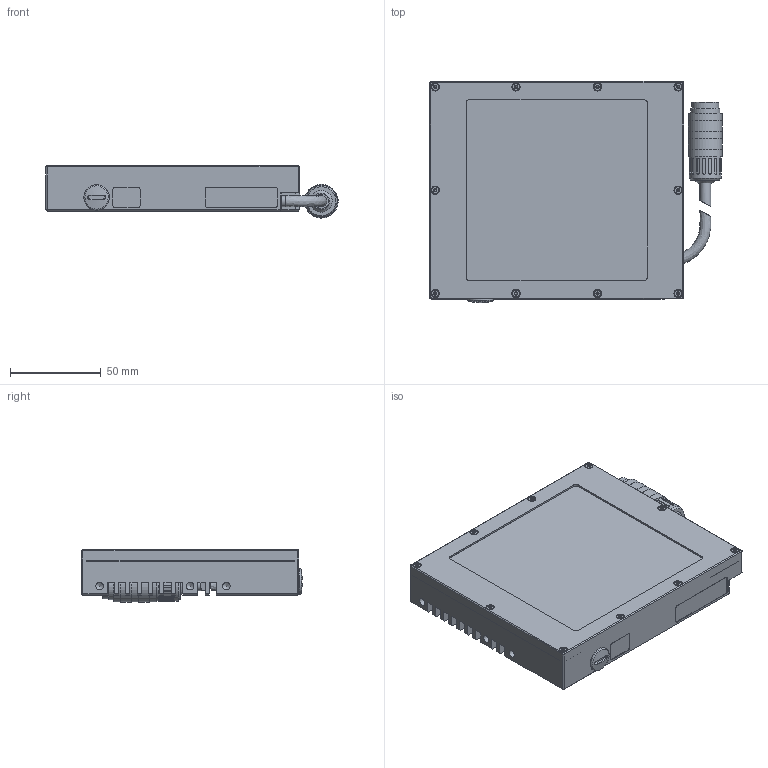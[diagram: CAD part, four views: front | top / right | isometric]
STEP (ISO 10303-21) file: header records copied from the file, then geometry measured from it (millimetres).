
FILE_DESCRIPTION(/* description */ (''),/* implementation_level */ '2;1');
FILE_NAME(/* name */ 'LG1010-BK-V02',/* time_stamp */ '2022-01-17T15:08:51+01:00',/* author */ (''),/* organization */ ('iiM AG'),/* preprocessor_version */ 'ST-DEVELOPER v16.7',/* originating_system */ 'DEX',/* authorisation */ $);
FILE_SCHEMA (('CONFIG_CONTROL_DESIGN'));
Length unit declared in the file: millimetre
Products named in the file (1): LG1010-BK-V02_MO
Bounding box: 161.29 x 121.97 x 28.79 mm (x, y, z)
Volume: 203947.2 mm3; surface area: 119086 mm2
Topology: 3 solids, 13 shells, 906 faces, 2423 edges, 1558 vertices
Faces by surface type: plane 374, cylinder 343, cone 145, bspline 18, torus 13, sphere 13
Full cylindrical faces by diameter (mm): 1 x12, 1.567 x20, 2 x10, 2.1 x6, 2.11 x4, 2.459 x4, 3.8 x10, 4.134 x20, 5.2 x1, 6 x2, 6.2 x1, 8 x1, 9 x1, 11 x3, 11.89 x1, 14 x1, 15 x1, 16 x1, 17.5 x1, 18.5 x3, 18.6 x2
Entity records: 38217 total; most frequent: CARTESIAN_POINT 11459, ORIENTED_EDGE 4090, DIRECTION 4037, EDGE_CURVE 2045, AXIS2_PLACEMENT_3D 1552, VERTEX_POINT 1426, FACE_BOUND 1195, EDGE_LOOP 1165
